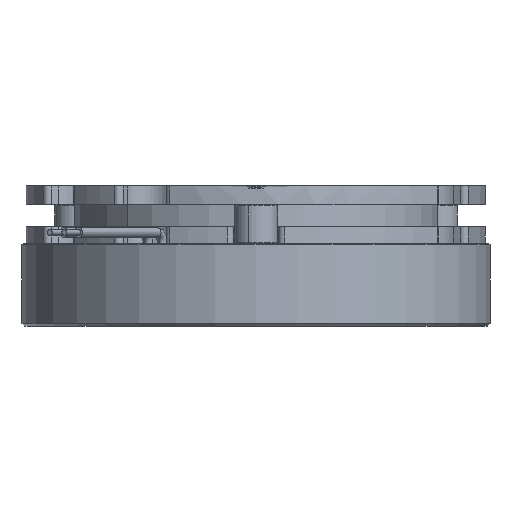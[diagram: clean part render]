
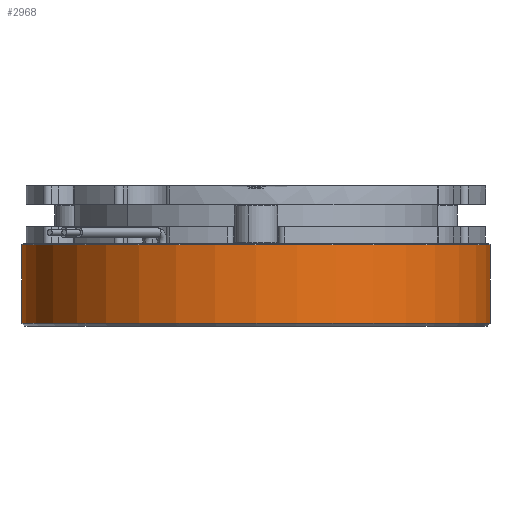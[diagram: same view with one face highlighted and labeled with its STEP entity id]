
A CAD part, front view. The second image highlights one B-rep face of the part: STEP entity #2968.
In plain terms, the highlighted cylindrical face has radius 41.75 mm (diameter 83.5 mm), a partial arc.
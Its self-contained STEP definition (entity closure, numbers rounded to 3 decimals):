
#32 = VERTEX_POINT ( 'NONE', #5622 ) ;
#76 = VERTEX_POINT ( 'NONE', #2110 ) ;
#636 = ORIENTED_EDGE ( 'NONE', *, *, #10671, .F. ) ;
#637 = ORIENTED_EDGE ( 'NONE', *, *, #10770, .T. ) ;
#638 = ORIENTED_EDGE ( 'NONE', *, *, #10663, .T. ) ;
#639 = ORIENTED_EDGE ( 'NONE', *, *, #10782, .T. ) ;
#2110 = CARTESIAN_POINT ( 'NONE',  ( -41.75, 0., 0.5 ) ) ;
#2968 = ADVANCED_FACE ( 'NONE', ( #3906 ), #3914, .T. ) ;
#3906 = FACE_OUTER_BOUND ( 'NONE', #5414, .T. ) ;
#3914 = CYLINDRICAL_SURFACE ( 'NONE', #7957, 41.75 ) ;
#4218 = DIRECTION ( 'NONE',  ( 0., 0., -1. ) ) ;
#4227 = CARTESIAN_POINT ( 'NONE',  ( 0., 0., 14.7 ) ) ;
#4235 = DIRECTION ( 'NONE',  ( -1., 0., 0. ) ) ;
#5414 = EDGE_LOOP ( 'NONE', ( #636, #637, #638, #639 ) ) ;
#5622 = CARTESIAN_POINT ( 'NONE',  ( -41.75, 0., 14.5 ) ) ;
#7957 = AXIS2_PLACEMENT_3D ( 'NONE', #4227, #4218, #4235 ) ;
#8751 = AXIS2_PLACEMENT_3D ( 'NONE', #9952, #9953, #9954 ) ;
#8769 = AXIS2_PLACEMENT_3D ( 'NONE', #9987, #9988, #9989 ) ;
#9117 = LINE ( 'NONE', #9680, #9120 ) ;
#9120 = VECTOR ( 'NONE', #9669, 1000. ) ;
#9130 = LINE ( 'NONE', #9700, #9133 ) ;
#9133 = VECTOR ( 'NONE', #9701, 1000. ) ;
#9279 = CIRCLE ( 'NONE', #8751, 41.75 ) ;
#9290 = CIRCLE ( 'NONE', #8769, 41.75 ) ;
#9669 = DIRECTION ( 'NONE',  ( 0., 0., -1. ) ) ;
#9680 = CARTESIAN_POINT ( 'NONE',  ( -41.75, 0., 14.7 ) ) ;
#9700 = CARTESIAN_POINT ( 'NONE',  ( 41.75, 0., 14.7 ) ) ;
#9701 = DIRECTION ( 'NONE',  ( 0., 0., -1. ) ) ;
#9952 = CARTESIAN_POINT ( 'NONE',  ( 0., 0., 14.5 ) ) ;
#9953 = DIRECTION ( 'NONE',  ( 0., 0., -1. ) ) ;
#9954 = DIRECTION ( 'NONE',  ( 1., 0., 0. ) ) ;
#9987 = CARTESIAN_POINT ( 'NONE',  ( 0., 0., 0.5 ) ) ;
#9988 = DIRECTION ( 'NONE',  ( 0., 0., 1. ) ) ;
#9989 = DIRECTION ( 'NONE',  ( 1., 0., 0. ) ) ;
#10663 = EDGE_CURVE ( 'NONE', #32, #76, #9117, .T. ) ;
#10671 = EDGE_CURVE ( 'NONE', #14288, #14419, #9130, .T. ) ;
#10770 = EDGE_CURVE ( 'NONE', #14288, #32, #9279, .T. ) ;
#10782 = EDGE_CURVE ( 'NONE', #76, #14419, #9290, .T. ) ;
#13377 = CARTESIAN_POINT ( 'NONE',  ( 41.75, 0., 14.5 ) ) ;
#13458 = CARTESIAN_POINT ( 'NONE',  ( 41.75, 0., 0.5 ) ) ;
#14288 = VERTEX_POINT ( 'NONE', #13377 ) ;
#14419 = VERTEX_POINT ( 'NONE', #13458 ) ;
